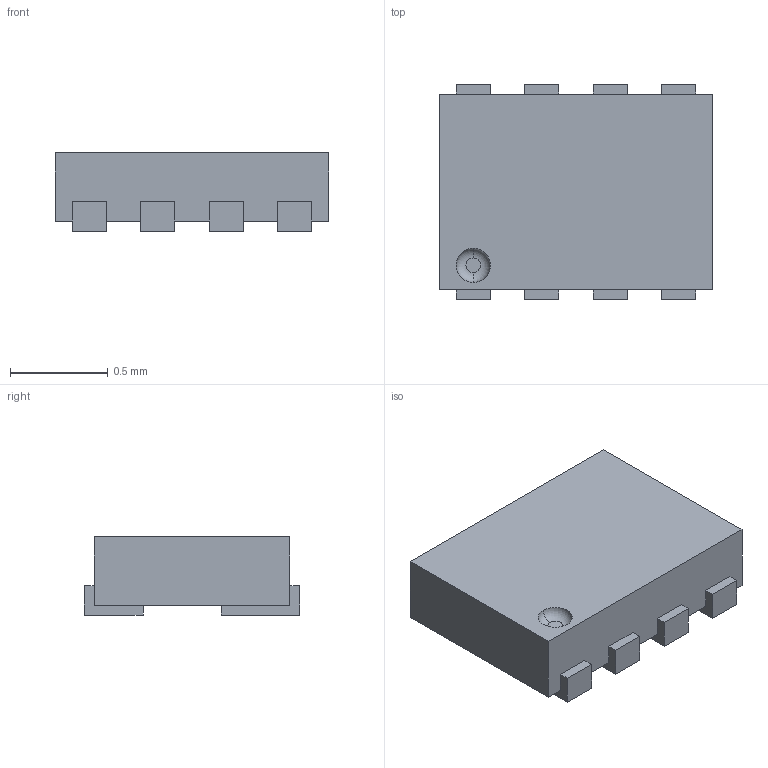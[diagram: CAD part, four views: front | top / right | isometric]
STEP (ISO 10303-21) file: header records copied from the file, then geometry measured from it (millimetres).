
FILE_DESCRIPTION (( 'STEP AP214' ), '1' );
FILE_NAME ( 'SON8P35_140X100X40L30X17.STEP', '2021-10-06T06:48:57', ( '' ), ( '' ), '', '©2017 PCB Libraries, Inc.', '' );
FILE_SCHEMA (( 'AUTOMOTIVE_DESIGN' ));
Length unit declared in the file: millimetre
Products named in the file (1): SON8P35_140X100X40L30X17
Bounding box: 1.4 x 1.1 x 0.4 mm (x, y, z)
Volume: 0.5 mm3; surface area: 6.1 mm2
Topology: 9 solids, 9 shells, 73 faces, 162 edges, 108 vertices
Faces by surface type: plane 71, torus 2
Entity records: 2311 total; most frequent: CARTESIAN_POINT 344, ORIENTED_EDGE 324, DIRECTION 316, EDGE_CURVE 162, VECTOR 156, LINE 156, VERTEX_POINT 108, STYLED_ITEM 83
